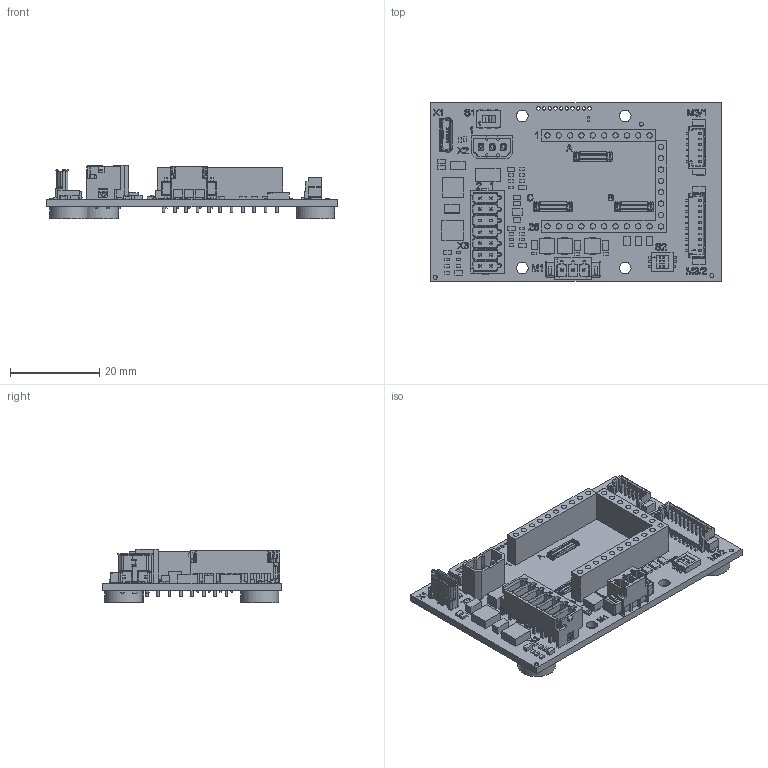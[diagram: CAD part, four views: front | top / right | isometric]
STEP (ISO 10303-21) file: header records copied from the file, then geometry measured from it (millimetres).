
FILE_DESCRIPTION(/* description */ (''),/* implementation_level */ '2;1');
FILE_NAME(/* name */ 'MC3001_DC_IE_R_RS_3_L.stp',/* time_stamp */ '2021-01-13T14:30:43+01:00',/* author */ ('DR. FRITZ FAULHABER GmbH & Co. KG'),/* organization */ ('DR. FRITZ FAULHABER GmbH & Co. KG'),/* preprocessor_version */ 'ST-DEVELOPER v16.7',/* originating_system */ 'SIEMENS PLM Software NX 1919',/* authorisation */ '');
FILE_SCHEMA (('AUTOMOTIVE_DESIGN { 1 0 10303 214 3 1 1 1 }'));
Products named in the file (1): 012014_B_1-TP-00206
Bounding box: 65 x 40 x 11.92 mm (x, y, z)
Volume: 7795.1 mm3; surface area: 11559.4 mm2
Topology: 1 solids, 5 shells, 6404 faces, 17200 edges, 11256 vertices
Faces by surface type: plane 5080, cylinder 1035, bspline 125, extrusion 116, cone 30, sphere 10, torus 8
Full cylindrical faces by diameter (mm): 0.6 x28, 0.75 x10, 0.8 x28, 0.9 x3, 1.1 x3, 1.2 x50, 2.6 x4, 8.45 x4
Entity records: 206041 total; most frequent: CARTESIAN_POINT 45858, ORIENTED_EDGE 33996, DIRECTION 30726, EDGE_CURVE 16998, VECTOR 14192, LINE 14076, VERTEX_POINT 11196, AXIS2_PLACEMENT_3D 8267
